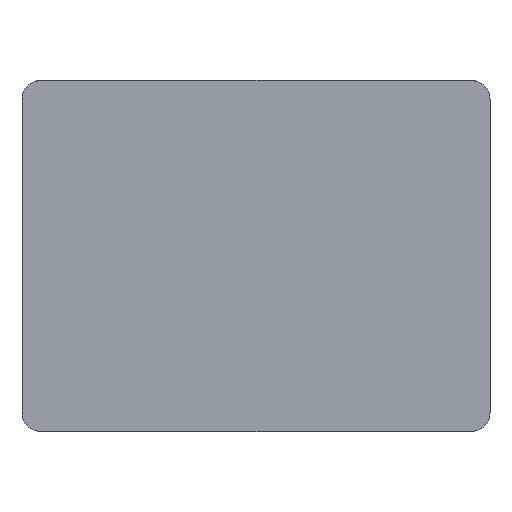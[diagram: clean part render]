
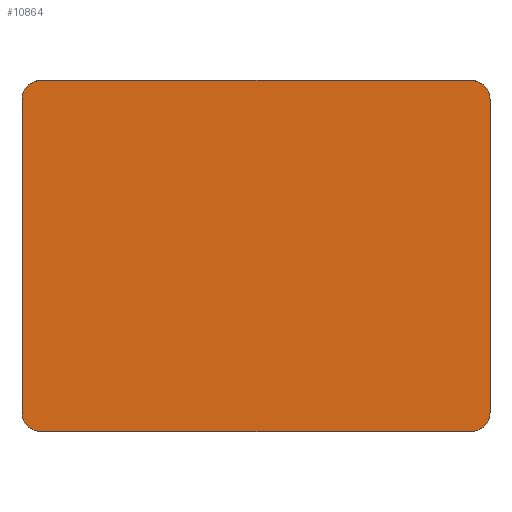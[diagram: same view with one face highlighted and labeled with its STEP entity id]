
A CAD part, left-side view. The second image highlights one B-rep face of the part: STEP entity #10864.
In plain terms, the highlighted planar face has unit normal (-1, 0, 0).
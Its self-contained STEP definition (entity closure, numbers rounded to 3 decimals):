
#1448=PLANE('',#11152);
#2019=FACE_OUTER_BOUND('',#2667,.T.);
#2667=EDGE_LOOP('',(#10052,#10053,#10054,#10055,#10056,#10057,#10058,#10059));
#3436=LINE('',#22149,#4201);
#3441=LINE('',#22179,#4206);
#3450=LINE('',#22222,#4215);
#3453=LINE('',#22231,#4218);
#4201=VECTOR('',#12292,10.);
#4206=VECTOR('',#12335,10.);
#4215=VECTOR('',#12386,10.);
#4218=VECTOR('',#12395,10.);
#4284=CIRCLE('',#11150,8.);
#4285=CIRCLE('',#11153,8.);
#4286=CIRCLE('',#11154,8.);
#4287=CIRCLE('',#11155,8.);
#5327=VERTEX_POINT('',#22143);
#5329=VERTEX_POINT('',#22147);
#5333=VERTEX_POINT('',#22173);
#5335=VERTEX_POINT('',#22177);
#5347=VERTEX_POINT('',#22217);
#5348=VERTEX_POINT('',#22221);
#5350=VERTEX_POINT('',#22228);
#5351=VERTEX_POINT('',#22230);
#6903=EDGE_CURVE('',#5329,#5327,#3436,.T.);
#6910=EDGE_CURVE('',#5335,#5333,#3441,.T.);
#6929=EDGE_CURVE('',#5333,#5347,#4284,.T.);
#6931=EDGE_CURVE('',#5347,#5348,#3450,.T.);
#6934=EDGE_CURVE('',#5327,#5335,#4285,.T.);
#6935=EDGE_CURVE('',#5350,#5329,#4286,.T.);
#6936=EDGE_CURVE('',#5351,#5350,#3453,.T.);
#6937=EDGE_CURVE('',#5348,#5351,#4287,.T.);
#10052=ORIENTED_EDGE('',*,*,#6929,.F.);
#10053=ORIENTED_EDGE('',*,*,#6910,.F.);
#10054=ORIENTED_EDGE('',*,*,#6934,.F.);
#10055=ORIENTED_EDGE('',*,*,#6903,.F.);
#10056=ORIENTED_EDGE('',*,*,#6935,.F.);
#10057=ORIENTED_EDGE('',*,*,#6936,.F.);
#10058=ORIENTED_EDGE('',*,*,#6937,.F.);
#10059=ORIENTED_EDGE('',*,*,#6931,.F.);
#10864=ADVANCED_FACE('',(#2019),#1448,.F.);
#11150=AXIS2_PLACEMENT_3D('',#22218,#12381,#12382);
#11152=AXIS2_PLACEMENT_3D('',#22226,#12389,#12390);
#11153=AXIS2_PLACEMENT_3D('',#22227,#12391,#12392);
#11154=AXIS2_PLACEMENT_3D('',#22229,#12393,#12394);
#11155=AXIS2_PLACEMENT_3D('',#22232,#12396,#12397);
#12292=DIRECTION('',(0.,0.,-1.));
#12335=DIRECTION('',(0.,1.,0.));
#12381=DIRECTION('center_axis',(1.,0.,0.));
#12382=DIRECTION('ref_axis',(0.,0.707,-0.707));
#12386=DIRECTION('',(0.,0.,1.));
#12389=DIRECTION('center_axis',(1.,0.,0.));
#12390=DIRECTION('ref_axis',(0.,1.,0.));
#12391=DIRECTION('center_axis',(1.,0.,0.));
#12392=DIRECTION('ref_axis',(0.,-0.707,-0.707));
#12393=DIRECTION('center_axis',(1.,0.,0.));
#12394=DIRECTION('ref_axis',(0.,-0.707,0.707));
#12395=DIRECTION('',(0.,-1.,0.));
#12396=DIRECTION('center_axis',(1.,0.,0.));
#12397=DIRECTION('ref_axis',(0.,0.707,0.707));
#22143=CARTESIAN_POINT('',(0.,0.,8.));
#22147=CARTESIAN_POINT('',(0.,0.,142.));
#22149=CARTESIAN_POINT('',(0.,0.,150.));
#22173=CARTESIAN_POINT('',(0.,192.,0.));
#22177=CARTESIAN_POINT('',(0.,8.,0.));
#22179=CARTESIAN_POINT('',(0.,0.,0.));
#22217=CARTESIAN_POINT('',(0.,200.,8.));
#22218=CARTESIAN_POINT('Origin',(0.,192.,8.));
#22221=CARTESIAN_POINT('',(0.,200.,142.));
#22222=CARTESIAN_POINT('',(0.,200.,0.));
#22226=CARTESIAN_POINT('Origin',(0.,100.,75.));
#22227=CARTESIAN_POINT('Origin',(0.,8.,8.));
#22228=CARTESIAN_POINT('',(0.,8.,150.));
#22229=CARTESIAN_POINT('Origin',(0.,8.,142.));
#22230=CARTESIAN_POINT('',(0.,192.,150.));
#22231=CARTESIAN_POINT('',(0.,200.,150.));
#22232=CARTESIAN_POINT('Origin',(0.,192.,142.));
